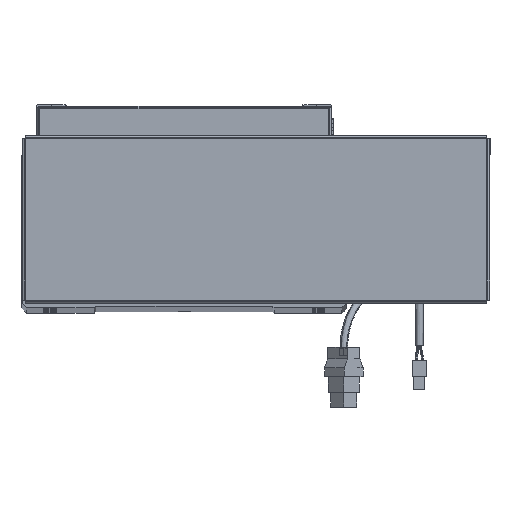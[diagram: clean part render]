
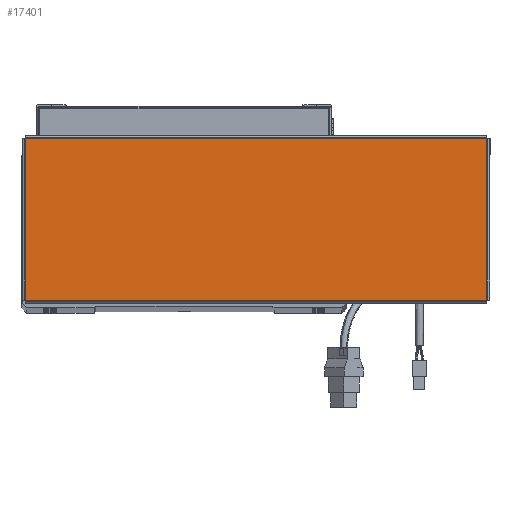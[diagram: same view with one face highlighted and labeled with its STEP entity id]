
A CAD part, top view. The second image highlights one B-rep face of the part: STEP entity #17401.
In plain terms, the highlighted planar face has unit normal (0, 0, 1).
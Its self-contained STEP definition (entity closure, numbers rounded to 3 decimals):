
#3410 = LINE ( 'NONE', #41238, #70424 ) ;
#10297 = VERTEX_POINT ( 'NONE', #36251 ) ;
#10834 = VECTOR ( 'NONE', #57957, 1000. ) ;
#11863 = ORIENTED_EDGE ( 'NONE', *, *, #48440, .T. ) ;
#13830 = DIRECTION ( 'NONE',  ( -1., 0., 0. ) ) ;
#16231 = DIRECTION ( 'NONE',  ( 0., 0., 1. ) ) ;
#17253 = ORIENTED_EDGE ( 'NONE', *, *, #30895, .T. ) ;
#17401 = ADVANCED_FACE ( 'NONE', ( #29059 ), #70280, .T. ) ;
#18889 = CARTESIAN_POINT ( 'NONE',  ( -156.543, -54.763, 0. ) ) ;
#19520 = CARTESIAN_POINT ( 'NONE',  ( -156.513, 54.793, 0. ) ) ;
#24013 = CARTESIAN_POINT ( 'NONE',  ( 156.513, -54.763, 0. ) ) ;
#25876 = DIRECTION ( 'NONE',  ( 0., 1., 0. ) ) ;
#26116 = CARTESIAN_POINT ( 'NONE',  ( 156.513, -54.793, 0. ) ) ;
#26921 = EDGE_CURVE ( 'NONE', #56927, #10297, #3410, .T. ) ;
#27241 = VECTOR ( 'NONE', #25876, 1000. ) ;
#29059 = FACE_OUTER_BOUND ( 'NONE', #48231, .T. ) ;
#29974 = DIRECTION ( 'NONE',  ( 1., 0., 0. ) ) ;
#30275 = EDGE_CURVE ( 'NONE', #60916, #50108, #47811, .T. ) ;
#30895 = EDGE_CURVE ( 'NONE', #10297, #60916, #64929, .T. ) ;
#36251 = CARTESIAN_POINT ( 'NONE',  ( -156.513, 54.763, 0. ) ) ;
#37382 = CARTESIAN_POINT ( 'NONE',  ( 0., 0., 0. ) ) ;
#41238 = CARTESIAN_POINT ( 'NONE',  ( 156.543, 54.763, 0. ) ) ;
#43590 = ORIENTED_EDGE ( 'NONE', *, *, #30275, .T. ) ;
#44873 = CARTESIAN_POINT ( 'NONE',  ( -156.513, -54.763, 0. ) ) ;
#47811 = LINE ( 'NONE', #18889, #61501 ) ;
#48231 = EDGE_LOOP ( 'NONE', ( #43590, #11863, #52047, #17253 ) ) ;
#48440 = EDGE_CURVE ( 'NONE', #50108, #56927, #56443, .T. ) ;
#50108 = VERTEX_POINT ( 'NONE', #24013 ) ;
#52047 = ORIENTED_EDGE ( 'NONE', *, *, #26921, .T. ) ;
#54671 = DIRECTION ( 'NONE',  ( 1., 0., 0. ) ) ;
#56443 = LINE ( 'NONE', #26116, #27241 ) ;
#56927 = VERTEX_POINT ( 'NONE', #64397 ) ;
#57957 = DIRECTION ( 'NONE',  ( 0., -1., 0. ) ) ;
#60916 = VERTEX_POINT ( 'NONE', #44873 ) ;
#61501 = VECTOR ( 'NONE', #29974, 1000. ) ;
#63340 = AXIS2_PLACEMENT_3D ( 'NONE', #37382, #16231, #54671 ) ;
#64397 = CARTESIAN_POINT ( 'NONE',  ( 156.513, 54.763, 0. ) ) ;
#64929 = LINE ( 'NONE', #19520, #10834 ) ;
#70280 = PLANE ( 'NONE',  #63340 ) ;
#70424 = VECTOR ( 'NONE', #13830, 1000. ) ;
